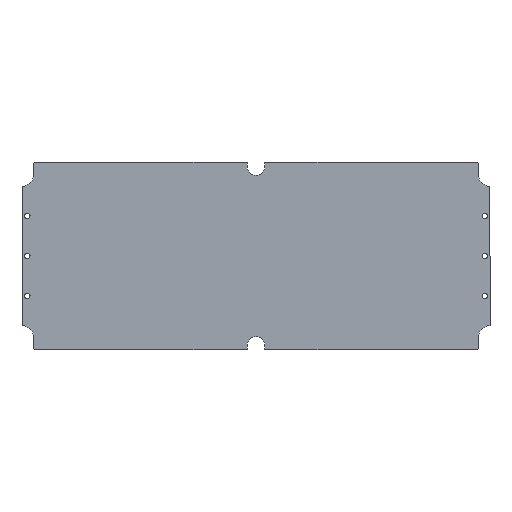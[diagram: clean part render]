
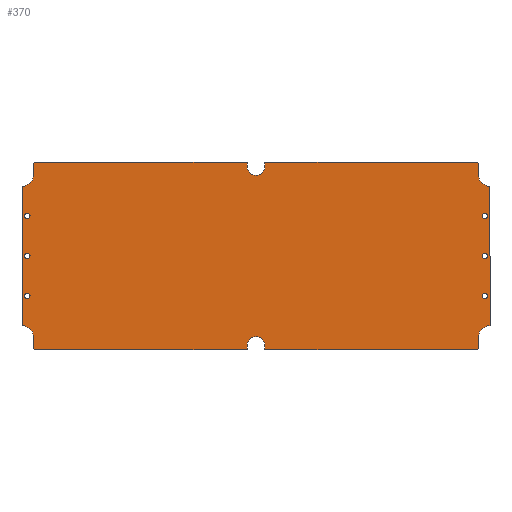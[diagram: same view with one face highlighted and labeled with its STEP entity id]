
A CAD part, top view. The second image highlights one B-rep face of the part: STEP entity #370.
In plain terms, the highlighted planar face has unit normal (0, 0, 1).
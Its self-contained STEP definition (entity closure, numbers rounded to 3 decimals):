
#59=CARTESIAN_POINT('',(277.0,117.0,0.0));
#60=VERTEX_POINT('',#59);
#67=CARTESIAN_POINT('',(278.0,116.,0.0));
#68=VERTEX_POINT('',#67);
#69=CARTESIAN_POINT('',(277.0,117.0,0.0));
#70=DIRECTION('',(0.707,-0.707,0.0));
#71=VECTOR('',#70,1.414);
#72=LINE('',#69,#71);
#73=EDGE_CURVE('',#60,#68,#72,.T.);
#90=CARTESIAN_POINT('',(278.0,101.5,0.0));
#91=VERTEX_POINT('',#90);
#92=CARTESIAN_POINT('',(278.0,116.,0.0));
#93=DIRECTION('',(0.0,-1.0,0.0));
#94=VECTOR('',#93,14.5);
#95=LINE('',#92,#94);
#96=EDGE_CURVE('',#68,#91,#95,.T.);
#115=CARTESIAN_POINT('',(0.,0.,0.0));
#116=DIRECTION('',(0.0,0.0,1.0));
#117=DIRECTION('',(1.0,0.0,0.0));
#118=AXIS2_PLACEMENT_3D('',#115,#116,#117);
#119=PLANE('',#118);
#120=ORIENTED_EDGE('',*,*,#73,.F.);
#121=CARTESIAN_POINT('',(11.,117.,0.0));
#122=VERTEX_POINT('',#121);
#123=CARTESIAN_POINT('',(11.,117.,0.0));
#124=DIRECTION('',(1.0,0.0,0.0));
#125=VECTOR('',#124,266.);
#126=LINE('',#123,#125);
#127=EDGE_CURVE('',#122,#60,#126,.T.);
#128=ORIENTED_EDGE('',*,*,#127,.F.);
#129=CARTESIAN_POINT('',(11.,112.,0.0));
#130=VERTEX_POINT('',#129);
#131=CARTESIAN_POINT('',(11.,112.,0.0));
#132=DIRECTION('',(0.0,1.0,0.0));
#133=VECTOR('',#132,5.);
#134=LINE('',#131,#133);
#135=EDGE_CURVE('',#130,#122,#134,.T.);
#136=ORIENTED_EDGE('',*,*,#135,.F.);
#137=CARTESIAN_POINT('',(-11.,112.,0.0));
#138=VERTEX_POINT('',#137);
#139=CARTESIAN_POINT('',(0.,112.,0.0));
#140=DIRECTION('',(0.0,0.0,1.0));
#141=DIRECTION('',(-1.0,0.0,0.0));
#142=AXIS2_PLACEMENT_3D('',#139,#140,#141);
#143=CIRCLE('',#142,11.0);
#144=EDGE_CURVE('',#138,#130,#143,.T.);
#145=ORIENTED_EDGE('',*,*,#144,.F.);
#146=CARTESIAN_POINT('',(-11.,117.,0.0));
#147=VERTEX_POINT('',#146);
#148=CARTESIAN_POINT('',(-11.,117.,0.0));
#149=DIRECTION('',(0.0,-1.0,0.0));
#150=VECTOR('',#149,5.);
#151=LINE('',#148,#150);
#152=EDGE_CURVE('',#147,#138,#151,.T.);
#153=ORIENTED_EDGE('',*,*,#152,.F.);
#154=CARTESIAN_POINT('',(-277.0,117.,0.0));
#155=VERTEX_POINT('',#154);
#156=CARTESIAN_POINT('',(-277.0,117.,0.0));
#157=DIRECTION('',(1.0,0.0,0.0));
#158=VECTOR('',#157,266.);
#159=LINE('',#156,#158);
#160=EDGE_CURVE('',#155,#147,#159,.T.);
#161=ORIENTED_EDGE('',*,*,#160,.F.);
#162=CARTESIAN_POINT('',(-278.0,116.,0.0));
#163=VERTEX_POINT('',#162);
#164=CARTESIAN_POINT('',(-278.0,116.,0.0));
#165=DIRECTION('',(0.707,0.707,0.0));
#166=VECTOR('',#165,1.414);
#167=LINE('',#164,#166);
#168=EDGE_CURVE('',#163,#155,#167,.T.);
#169=ORIENTED_EDGE('',*,*,#168,.F.);
#170=CARTESIAN_POINT('',(-278.,101.5,0.0));
#171=VERTEX_POINT('',#170);
#172=CARTESIAN_POINT('',(-278.,101.5,0.0));
#173=DIRECTION('',(0.0,1.0,0.0));
#174=VECTOR('',#173,14.5);
#175=LINE('',#172,#174);
#176=EDGE_CURVE('',#171,#163,#175,.T.);
#177=ORIENTED_EDGE('',*,*,#176,.F.);
#178=CARTESIAN_POINT('',(-292.5,87.,0.0));
#179=VERTEX_POINT('',#178);
#180=CARTESIAN_POINT('',(-292.5,101.5,0.0));
#181=DIRECTION('',(0.0,0.0,1.0));
#182=DIRECTION('',(0.0,-1.0,0.0));
#183=AXIS2_PLACEMENT_3D('',#180,#181,#182);
#184=CIRCLE('',#183,14.5);
#185=EDGE_CURVE('',#179,#171,#184,.T.);
#186=ORIENTED_EDGE('',*,*,#185,.F.);
#187=CARTESIAN_POINT('',(-292.5,-87.,0.0));
#188=VERTEX_POINT('',#187);
#189=CARTESIAN_POINT('',(-292.5,-87.,0.0));
#190=DIRECTION('',(0.0,1.0,0.0));
#191=VECTOR('',#190,174.0);
#192=LINE('',#189,#191);
#193=EDGE_CURVE('',#188,#179,#192,.T.);
#194=ORIENTED_EDGE('',*,*,#193,.F.);
#195=CARTESIAN_POINT('',(-278.,-101.5,0.0));
#196=VERTEX_POINT('',#195);
#197=CARTESIAN_POINT('',(-292.5,-101.5,0.0));
#198=DIRECTION('',(0.0,0.0,1.0));
#199=DIRECTION('',(1.0,0.0,0.0));
#200=AXIS2_PLACEMENT_3D('',#197,#198,#199);
#201=CIRCLE('',#200,14.5);
#202=EDGE_CURVE('',#196,#188,#201,.T.);
#203=ORIENTED_EDGE('',*,*,#202,.F.);
#204=CARTESIAN_POINT('',(-278.0,-116.,0.0));
#205=VERTEX_POINT('',#204);
#206=CARTESIAN_POINT('',(-278.0,-116.,0.0));
#207=DIRECTION('',(0.0,1.0,0.0));
#208=VECTOR('',#207,14.5);
#209=LINE('',#206,#208);
#210=EDGE_CURVE('',#205,#196,#209,.T.);
#211=ORIENTED_EDGE('',*,*,#210,.F.);
#212=CARTESIAN_POINT('',(-277.0,-117.0,0.0));
#213=VERTEX_POINT('',#212);
#214=CARTESIAN_POINT('',(-277.0,-117.0,0.0));
#215=DIRECTION('',(-0.707,0.707,0.0));
#216=VECTOR('',#215,1.414);
#217=LINE('',#214,#216);
#218=EDGE_CURVE('',#213,#205,#217,.T.);
#219=ORIENTED_EDGE('',*,*,#218,.F.);
#220=CARTESIAN_POINT('',(-11.,-117.,0.0));
#221=VERTEX_POINT('',#220);
#222=CARTESIAN_POINT('',(-11.,-117.,0.0));
#223=DIRECTION('',(-1.0,0.0,0.0));
#224=VECTOR('',#223,266.);
#225=LINE('',#222,#224);
#226=EDGE_CURVE('',#221,#213,#225,.T.);
#227=ORIENTED_EDGE('',*,*,#226,.F.);
#228=CARTESIAN_POINT('',(-11.,-112.,0.0));
#229=VERTEX_POINT('',#228);
#230=CARTESIAN_POINT('',(-11.,-112.,0.0));
#231=DIRECTION('',(0.0,-1.0,0.0));
#232=VECTOR('',#231,5.);
#233=LINE('',#230,#232);
#234=EDGE_CURVE('',#229,#221,#233,.T.);
#235=ORIENTED_EDGE('',*,*,#234,.F.);
#236=CARTESIAN_POINT('',(11.,-112.,0.0));
#237=VERTEX_POINT('',#236);
#238=CARTESIAN_POINT('',(0.,-112.,0.0));
#239=DIRECTION('',(0.0,0.0,1.0));
#240=DIRECTION('',(1.0,0.0,0.0));
#241=AXIS2_PLACEMENT_3D('',#238,#239,#240);
#242=CIRCLE('',#241,11.0);
#243=EDGE_CURVE('',#237,#229,#242,.T.);
#244=ORIENTED_EDGE('',*,*,#243,.F.);
#245=CARTESIAN_POINT('',(11.,-117.,0.0));
#246=VERTEX_POINT('',#245);
#247=CARTESIAN_POINT('',(11.,-117.,0.0));
#248=DIRECTION('',(0.0,1.0,0.0));
#249=VECTOR('',#248,5.);
#250=LINE('',#247,#249);
#251=EDGE_CURVE('',#246,#237,#250,.T.);
#252=ORIENTED_EDGE('',*,*,#251,.F.);
#253=CARTESIAN_POINT('',(277.0,-117.,0.0));
#254=VERTEX_POINT('',#253);
#255=CARTESIAN_POINT('',(277.0,-117.,0.0));
#256=DIRECTION('',(-1.0,0.0,0.0));
#257=VECTOR('',#256,266.);
#258=LINE('',#255,#257);
#259=EDGE_CURVE('',#254,#246,#258,.T.);
#260=ORIENTED_EDGE('',*,*,#259,.F.);
#261=CARTESIAN_POINT('',(278.0,-116.,0.0));
#262=VERTEX_POINT('',#261);
#263=CARTESIAN_POINT('',(278.0,-116.,0.0));
#264=DIRECTION('',(-0.707,-0.707,0.0));
#265=VECTOR('',#264,1.414);
#266=LINE('',#263,#265);
#267=EDGE_CURVE('',#262,#254,#266,.T.);
#268=ORIENTED_EDGE('',*,*,#267,.F.);
#269=CARTESIAN_POINT('',(278.0,-101.5,0.0));
#270=VERTEX_POINT('',#269);
#271=CARTESIAN_POINT('',(278.0,-101.5,0.0));
#272=DIRECTION('',(0.0,-1.0,0.0));
#273=VECTOR('',#272,14.5);
#274=LINE('',#271,#273);
#275=EDGE_CURVE('',#270,#262,#274,.T.);
#276=ORIENTED_EDGE('',*,*,#275,.F.);
#277=CARTESIAN_POINT('',(292.5,-87.0,0.0));
#278=VERTEX_POINT('',#277);
#279=CARTESIAN_POINT('',(292.5,-101.5,0.0));
#280=DIRECTION('',(0.0,0.0,1.0));
#281=DIRECTION('',(0.0,1.0,0.0));
#282=AXIS2_PLACEMENT_3D('',#279,#280,#281);
#283=CIRCLE('',#282,14.5);
#284=EDGE_CURVE('',#278,#270,#283,.T.);
#285=ORIENTED_EDGE('',*,*,#284,.F.);
#286=CARTESIAN_POINT('',(292.5,87.,0.0));
#287=VERTEX_POINT('',#286);
#288=CARTESIAN_POINT('',(292.5,87.,0.0));
#289=DIRECTION('',(0.0,-1.0,0.0));
#290=VECTOR('',#289,174.);
#291=LINE('',#288,#290);
#292=EDGE_CURVE('',#287,#278,#291,.T.);
#293=ORIENTED_EDGE('',*,*,#292,.F.);
#294=CARTESIAN_POINT('',(292.5,101.5,0.0));
#295=DIRECTION('',(0.0,0.0,1.0));
#296=DIRECTION('',(-1.0,0.0,0.0));
#297=AXIS2_PLACEMENT_3D('',#294,#295,#296);
#298=CIRCLE('',#297,14.5);
#299=EDGE_CURVE('',#91,#287,#298,.T.);
#300=ORIENTED_EDGE('',*,*,#299,.F.);
#301=ORIENTED_EDGE('',*,*,#96,.F.);
#302=EDGE_LOOP('',(#120,#128,#136,#145,#153,#161,#169,#177,#186,#194,#203,#211,#219,#227,#235,#244,#252,#260,#268,#276,#285,#293,#300,#301));
#303=FACE_OUTER_BOUND('',#302,.T.);
#304=CARTESIAN_POINT('',(289.5,50.,0.0));
#305=VERTEX_POINT('',#304);
#306=CARTESIAN_POINT('',(286.0,50.,0.0));
#307=DIRECTION('',(0.0,0.0,-1.0));
#308=DIRECTION('',(1.0,0.0,0.0));
#309=AXIS2_PLACEMENT_3D('',#306,#307,#308);
#310=CIRCLE('',#309,3.5);
#311=EDGE_CURVE('',#305,#305,#310,.T.);
#312=ORIENTED_EDGE('',*,*,#311,.T.);
#313=EDGE_LOOP('',(#312));
#314=FACE_BOUND('',#313,.T.);
#315=CARTESIAN_POINT('',(289.5,0.,0.0));
#316=VERTEX_POINT('',#315);
#317=CARTESIAN_POINT('',(286.0,0.,0.0));
#318=DIRECTION('',(0.0,0.0,-1.0));
#319=DIRECTION('',(1.0,0.0,0.0));
#320=AXIS2_PLACEMENT_3D('',#317,#318,#319);
#321=CIRCLE('',#320,3.5);
#322=EDGE_CURVE('',#316,#316,#321,.T.);
#323=ORIENTED_EDGE('',*,*,#322,.T.);
#324=EDGE_LOOP('',(#323));
#325=FACE_BOUND('',#324,.T.);
#326=CARTESIAN_POINT('',(289.5,-50.,0.0));
#327=VERTEX_POINT('',#326);
#328=CARTESIAN_POINT('',(286.0,-50.,0.0));
#329=DIRECTION('',(0.0,0.0,-1.0));
#330=DIRECTION('',(1.0,0.0,0.0));
#331=AXIS2_PLACEMENT_3D('',#328,#329,#330);
#332=CIRCLE('',#331,3.5);
#333=EDGE_CURVE('',#327,#327,#332,.T.);
#334=ORIENTED_EDGE('',*,*,#333,.T.);
#335=EDGE_LOOP('',(#334));
#336=FACE_BOUND('',#335,.T.);
#337=CARTESIAN_POINT('',(-282.5,-50.,0.0));
#338=VERTEX_POINT('',#337);
#339=CARTESIAN_POINT('',(-286.0,-50.,0.0));
#340=DIRECTION('',(0.0,0.0,-1.0));
#341=DIRECTION('',(1.0,0.0,0.0));
#342=AXIS2_PLACEMENT_3D('',#339,#340,#341);
#343=CIRCLE('',#342,3.5);
#344=EDGE_CURVE('',#338,#338,#343,.T.);
#345=ORIENTED_EDGE('',*,*,#344,.T.);
#346=EDGE_LOOP('',(#345));
#347=FACE_BOUND('',#346,.T.);
#348=CARTESIAN_POINT('',(-282.5,0.,0.0));
#349=VERTEX_POINT('',#348);
#350=CARTESIAN_POINT('',(-286.0,0.,0.0));
#351=DIRECTION('',(0.0,0.0,-1.0));
#352=DIRECTION('',(1.0,0.0,0.0));
#353=AXIS2_PLACEMENT_3D('',#350,#351,#352);
#354=CIRCLE('',#353,3.5);
#355=EDGE_CURVE('',#349,#349,#354,.T.);
#356=ORIENTED_EDGE('',*,*,#355,.T.);
#357=EDGE_LOOP('',(#356));
#358=FACE_BOUND('',#357,.T.);
#359=CARTESIAN_POINT('',(-282.5,50.,0.0));
#360=VERTEX_POINT('',#359);
#361=CARTESIAN_POINT('',(-286.0,50.,0.0));
#362=DIRECTION('',(0.0,0.0,-1.0));
#363=DIRECTION('',(1.0,0.0,0.0));
#364=AXIS2_PLACEMENT_3D('',#361,#362,#363);
#365=CIRCLE('',#364,3.5);
#366=EDGE_CURVE('',#360,#360,#365,.T.);
#367=ORIENTED_EDGE('',*,*,#366,.T.);
#368=EDGE_LOOP('',(#367));
#369=FACE_BOUND('',#368,.T.);
#370=ADVANCED_FACE('',(#303,#314,#325,#336,#347,#358,#369),#119,.T.);
